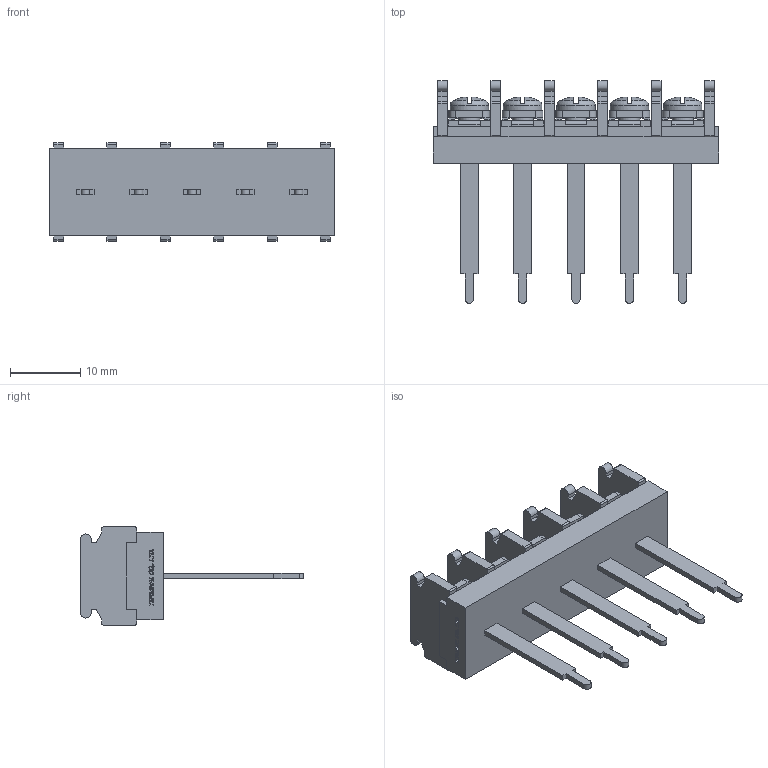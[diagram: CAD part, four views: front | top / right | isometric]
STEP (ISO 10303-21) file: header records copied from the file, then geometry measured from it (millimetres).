
FILE_DESCRIPTION(/* description */ ('Alibre Inc.'),/* implementation_level */ '2;1');
FILE_NAME(/* name */ 'export0',/* time_stamp */ '2015-10-26T16:05:40+09:00',/* author */ (''),/* organization */ (''),/* preprocessor_version */ 'ST-DEVELOPER v14',/* originating_system */ 'Alibre',/* authorisation */ '');
FILE_SCHEMA (('CONFIG_CONTROL_DESIGN'));
Length unit declared in the file: centimetre
Products named in the file (1): ID_1
Bounding box: 40.72 x 31.8 x 14 mm (x, y, z)
Volume: 4028.3 mm3; surface area: 4291.2 mm2
Topology: 1 solids, 1 shells, 982 faces, 2686 edges, 1766 vertices
Faces by surface type: plane 757, bspline 104, cylinder 81, cone 20, torus 10, sphere 10
Full cylindrical faces by diameter (mm): 3 x5, 5.5 x5
Entity records: 29593 total; most frequent: CARTESIAN_POINT 6508, ORIENTED_EDGE 5312, DIRECTION 3563, EDGE_CURVE 2656, VECTOR 1976, LINE 1976, VERTEX_POINT 1756, AXIS2_PLACEMENT_3D 1148
